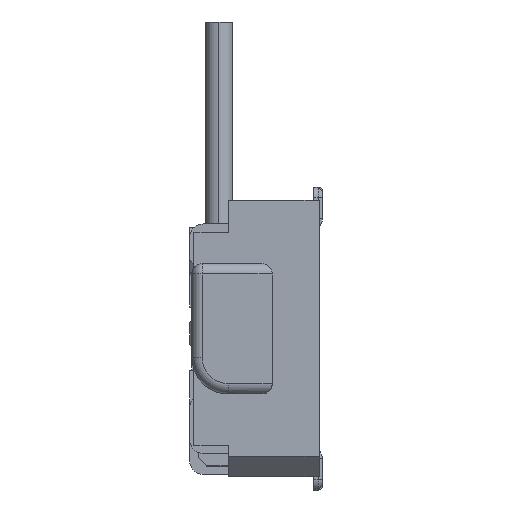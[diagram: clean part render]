
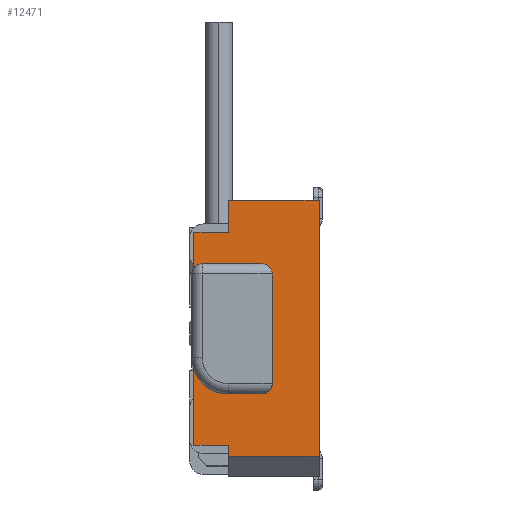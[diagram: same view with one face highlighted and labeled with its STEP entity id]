
A CAD part, left-side view. The second image highlights one B-rep face of the part: STEP entity #12471.
In plain terms, the highlighted planar face has unit normal (-1, 0, 0).
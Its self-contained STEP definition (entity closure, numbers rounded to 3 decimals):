
#1101 = CARTESIAN_POINT ( 'NONE',  ( -8.3, 0., -1.125 ) ) ;
#1117 = CARTESIAN_POINT ( 'NONE',  ( -8.3, 0.55, 0.72 ) ) ;
#1386 = CARTESIAN_POINT ( 'NONE',  ( -8.3, 1.2, -1.02 ) ) ;
#1475 = CARTESIAN_POINT ( 'NONE',  ( -8.3, 0.87, -1.02 ) ) ;
#1640 = CARTESIAN_POINT ( 'NONE',  ( -8.3, 0.87, -0.53 ) ) ;
#1685 = CARTESIAN_POINT ( 'NONE',  ( -8.3, 0.87, -1.125 ) ) ;
#8590 = ORIENTED_EDGE ( 'NONE', *, *, #18811, .T. ) ;
#8595 = ORIENTED_EDGE ( 'NONE', *, *, #18808, .T. ) ;
#8616 = ORIENTED_EDGE ( 'NONE', *, *, #18814, .F. ) ;
#8618 = ORIENTED_EDGE ( 'NONE', *, *, #18809, .F. ) ;
#8619 = ORIENTED_EDGE ( 'NONE', *, *, #18816, .T. ) ;
#8620 = ORIENTED_EDGE ( 'NONE', *, *, #18663, .F. ) ;
#8621 = ORIENTED_EDGE ( 'NONE', *, *, #18820, .T. ) ;
#8622 = ORIENTED_EDGE ( 'NONE', *, *, #18817, .T. ) ;
#8625 = ORIENTED_EDGE ( 'NONE', *, *, #18779, .T. ) ;
#8626 = ORIENTED_EDGE ( 'NONE', *, *, #18826, .F. ) ;
#8627 = ORIENTED_EDGE ( 'NONE', *, *, #18681, .T. ) ;
#8628 = ORIENTED_EDGE ( 'NONE', *, *, #18691, .T. ) ;
#8629 = ORIENTED_EDGE ( 'NONE', *, *, #18822, .T. ) ;
#8652 = ORIENTED_EDGE ( 'NONE', *, *, #20382, .T. ) ;
#8664 = ORIENTED_EDGE ( 'NONE', *, *, #18655, .F. ) ;
#8669 = ORIENTED_EDGE ( 'NONE', *, *, #18823, .T. ) ;
#9432 = EDGE_LOOP ( 'NONE', ( #8652, #8595, #8618, #8590, #8616, #8619, #8622, #8621, #8629, #8620, #8664, #8669, #8625, #8626, #8627, #8628 ) ) ;
#12471 = ADVANCED_FACE ( 'NONE', ( #27078 ), #27079, .F. ) ;
#14200 = VERTEX_POINT ( 'NONE', #34826 ) ;
#14209 = VERTEX_POINT ( 'NONE', #34834 ) ;
#17295 = VERTEX_POINT ( 'NONE', #38452 ) ;
#17522 = VERTEX_POINT ( 'NONE', #38679 ) ;
#17572 = VERTEX_POINT ( 'NONE', #38729 ) ;
#18655 = EDGE_CURVE ( 'NONE', #33005, #32067, #42400, .T. ) ;
#18663 = EDGE_CURVE ( 'NONE', #32067, #29899, #42435, .T. ) ;
#18681 = EDGE_CURVE ( 'NONE', #19098, #18797, #42492, .T. ) ;
#18691 = EDGE_CURVE ( 'NONE', #18797, #14209, #42530, .T. ) ;
#18779 = EDGE_CURVE ( 'NONE', #24664, #19073, #42856, .T. ) ;
#18797 = VERTEX_POINT ( 'NONE', #42890 ) ;
#18808 = EDGE_CURVE ( 'NONE', #14200, #18980, #43342, .T. ) ;
#18809 = EDGE_CURVE ( 'NONE', #24731, #18980, #42912, .T. ) ;
#18811 = EDGE_CURVE ( 'NONE', #24731, #17295, #43348, .T. ) ;
#18814 = EDGE_CURVE ( 'NONE', #17522, #17295, #42921, .T. ) ;
#18816 = EDGE_CURVE ( 'NONE', #17522, #17572, #43351, .T. ) ;
#18817 = EDGE_CURVE ( 'NONE', #17572, #32937, #42929, .T. ) ;
#18820 = EDGE_CURVE ( 'NONE', #32937, #18920, #43349, .T. ) ;
#18822 = EDGE_CURVE ( 'NONE', #18920, #29899, #42941, .T. ) ;
#18823 = EDGE_CURVE ( 'NONE', #33005, #24664, #42946, .T. ) ;
#18826 = EDGE_CURVE ( 'NONE', #19098, #19073, #42940, .T. ) ;
#18920 = VERTEX_POINT ( 'NONE', #43119 ) ;
#18980 = VERTEX_POINT ( 'NONE', #44389 ) ;
#19073 = VERTEX_POINT ( 'NONE', #44550 ) ;
#19098 = VERTEX_POINT ( 'NONE', #44590 ) ;
#20382 = EDGE_CURVE ( 'NONE', #14209, #14200, #49398, .T. ) ;
#24664 = VERTEX_POINT ( 'NONE', #1101 ) ;
#24731 = VERTEX_POINT ( 'NONE', #1117 ) ;
#27070 = CARTESIAN_POINT ( 'NONE',  ( -8.3, 1.09, -1.325 ) ) ;
#27078 = FACE_OUTER_BOUND ( 'NONE', #9432, .T. ) ;
#27079 = PLANE ( 'NONE',  #47685 ) ;
#27081 = DIRECTION ( 'NONE',  ( 1., 0., 0. ) ) ;
#27082 = DIRECTION ( 'NONE',  ( 0., 0., -1. ) ) ;
#29899 = VERTEX_POINT ( 'NONE', #1386 ) ;
#32067 = VERTEX_POINT ( 'NONE', #1475 ) ;
#32937 = VERTEX_POINT ( 'NONE', #1640 ) ;
#33005 = VERTEX_POINT ( 'NONE', #1685 ) ;
#34826 = CARTESIAN_POINT ( 'NONE',  ( -8.3, 1.2, 0.68 ) ) ;
#34834 = CARTESIAN_POINT ( 'NONE',  ( -8.3, 1.2, 1.02 ) ) ;
#38452 = CARTESIAN_POINT ( 'NONE',  ( -8.3, 0.45, 0.62 ) ) ;
#38679 = CARTESIAN_POINT ( 'NONE',  ( -8.3, 0.45, -0.43 ) ) ;
#38729 = CARTESIAN_POINT ( 'NONE',  ( -8.3, 0.55, -0.53 ) ) ;
#42400 = LINE ( 'NONE', #42402, #43205 ) ;
#42402 = CARTESIAN_POINT ( 'NONE',  ( -8.3, 0.87, -1.325 ) ) ;
#42404 = DIRECTION ( 'NONE',  ( 0., 0., 1. ) ) ;
#42435 = LINE ( 'NONE', #42437, #43213 ) ;
#42437 = CARTESIAN_POINT ( 'NONE',  ( -8.3, -1.531, -1.02 ) ) ;
#42438 = DIRECTION ( 'NONE',  ( 0., 1., 0. ) ) ;
#42492 = LINE ( 'NONE', #42494, #43231 ) ;
#42494 = CARTESIAN_POINT ( 'NONE',  ( -8.3, 0.87, 1.325 ) ) ;
#42495 = DIRECTION ( 'NONE',  ( 0., 0., -1. ) ) ;
#42530 = LINE ( 'NONE', #42532, #43241 ) ;
#42532 = CARTESIAN_POINT ( 'NONE',  ( -8.3, -1.531, 1.02 ) ) ;
#42533 = DIRECTION ( 'NONE',  ( 0., 1., 0. ) ) ;
#42856 = LINE ( 'NONE', #42862, #43332 ) ;
#42862 = CARTESIAN_POINT ( 'NONE',  ( -8.3, 0., -1.325 ) ) ;
#42863 = DIRECTION ( 'NONE',  ( 0., 0., 1. ) ) ;
#42890 = CARTESIAN_POINT ( 'NONE',  ( -8.3, 0.87, 1.02 ) ) ;
#42902 = CARTESIAN_POINT ( 'NONE',  ( -8.3, 1.09, 0.72 ) ) ;
#42912 = LINE ( 'NONE', #42902, #43344 ) ;
#42915 = CARTESIAN_POINT ( 'NONE',  ( -8.3, 1.12, 0.62 ) ) ;
#42916 = DIRECTION ( 'NONE',  ( 1., 0., 0. ) ) ;
#42917 = DIRECTION ( 'NONE',  ( 0., 0., -1. ) ) ;
#42919 = DIRECTION ( 'NONE',  ( 0., 1., 0. ) ) ;
#42920 = CARTESIAN_POINT ( 'NONE',  ( -8.3, 1.09, -0.53 ) ) ;
#42921 = LINE ( 'NONE', #42922, #43343 ) ;
#42922 = CARTESIAN_POINT ( 'NONE',  ( -8.3, 0.45, -1.325 ) ) ;
#42924 = CARTESIAN_POINT ( 'NONE',  ( -8.3, 0.55, 0.62 ) ) ;
#42925 = DIRECTION ( 'NONE',  ( 1., 0., 0. ) ) ;
#42926 = DIRECTION ( 'NONE',  ( 0., 0., -1. ) ) ;
#42927 = DIRECTION ( 'NONE',  ( 0., 0., 1. ) ) ;
#42929 = LINE ( 'NONE', #42920, #43350 ) ;
#42932 = CARTESIAN_POINT ( 'NONE',  ( -8.3, 0.55, -0.43 ) ) ;
#42933 = DIRECTION ( 'NONE',  ( 1., 0., 0. ) ) ;
#42935 = DIRECTION ( 'NONE',  ( 0., 0., -1. ) ) ;
#42937 = DIRECTION ( 'NONE',  ( 0., 1., 0. ) ) ;
#42938 = CARTESIAN_POINT ( 'NONE',  ( -8.3, 1.2, 1.02 ) ) ;
#42940 = LINE ( 'NONE', #42952, #43358 ) ;
#42941 = LINE ( 'NONE', #42938, #43353 ) ;
#42942 = CARTESIAN_POINT ( 'NONE',  ( -8.3, 0.87, -0.18 ) ) ;
#42943 = DIRECTION ( 'NONE',  ( 1., 0., 0. ) ) ;
#42944 = DIRECTION ( 'NONE',  ( 0., 0., -1. ) ) ;
#42945 = DIRECTION ( 'NONE',  ( 0., 0., -1. ) ) ;
#42946 = LINE ( 'NONE', #42948, #43355 ) ;
#42948 = CARTESIAN_POINT ( 'NONE',  ( -8.3, 1.09, -1.125 ) ) ;
#42949 = DIRECTION ( 'NONE',  ( 0., -1., 0. ) ) ;
#42952 = CARTESIAN_POINT ( 'NONE',  ( -8.3, 1.09, 1.325 ) ) ;
#42954 = DIRECTION ( 'NONE',  ( 0., -1., 0. ) ) ;
#43119 = CARTESIAN_POINT ( 'NONE',  ( -8.3, 1.2, -0.297 ) ) ;
#43205 = VECTOR ( 'NONE', #42404, 1000. ) ;
#43213 = VECTOR ( 'NONE', #42438, 1000. ) ;
#43231 = VECTOR ( 'NONE', #42495, 1000. ) ;
#43241 = VECTOR ( 'NONE', #42533, 1000. ) ;
#43332 = VECTOR ( 'NONE', #42863, 1000. ) ;
#43342 = CIRCLE ( 'NONE', #43345, 0.1 ) ;
#43343 = VECTOR ( 'NONE', #42927, 1000. ) ;
#43344 = VECTOR ( 'NONE', #42919, 1000. ) ;
#43345 = AXIS2_PLACEMENT_3D ( 'NONE', #42915, #42916, #42917 ) ;
#43346 = AXIS2_PLACEMENT_3D ( 'NONE', #42924, #42925, #42926 ) ;
#43347 = AXIS2_PLACEMENT_3D ( 'NONE', #42932, #42933, #42935 ) ;
#43348 = CIRCLE ( 'NONE', #43346, 0.1 ) ;
#43349 = CIRCLE ( 'NONE', #43354, 0.35 ) ;
#43350 = VECTOR ( 'NONE', #42937, 1000. ) ;
#43351 = CIRCLE ( 'NONE', #43347, 0.1 ) ;
#43353 = VECTOR ( 'NONE', #42945, 1000. ) ;
#43354 = AXIS2_PLACEMENT_3D ( 'NONE', #42942, #42943, #42944 ) ;
#43355 = VECTOR ( 'NONE', #42949, 1000. ) ;
#43358 = VECTOR ( 'NONE', #42954, 1000. ) ;
#44389 = CARTESIAN_POINT ( 'NONE',  ( -8.3, 1.12, 0.72 ) ) ;
#44550 = CARTESIAN_POINT ( 'NONE',  ( -8.3, 0., 1.325 ) ) ;
#44590 = CARTESIAN_POINT ( 'NONE',  ( -8.3, 0.87, 1.325 ) ) ;
#47685 = AXIS2_PLACEMENT_3D ( 'NONE', #27070, #27081, #27082 ) ;
#48773 = VECTOR ( 'NONE', #49400, 1000. ) ;
#49398 = LINE ( 'NONE', #49399, #48773 ) ;
#49399 = CARTESIAN_POINT ( 'NONE',  ( -8.3, 1.2, 1.02 ) ) ;
#49400 = DIRECTION ( 'NONE',  ( 0., 0., -1. ) ) ;
